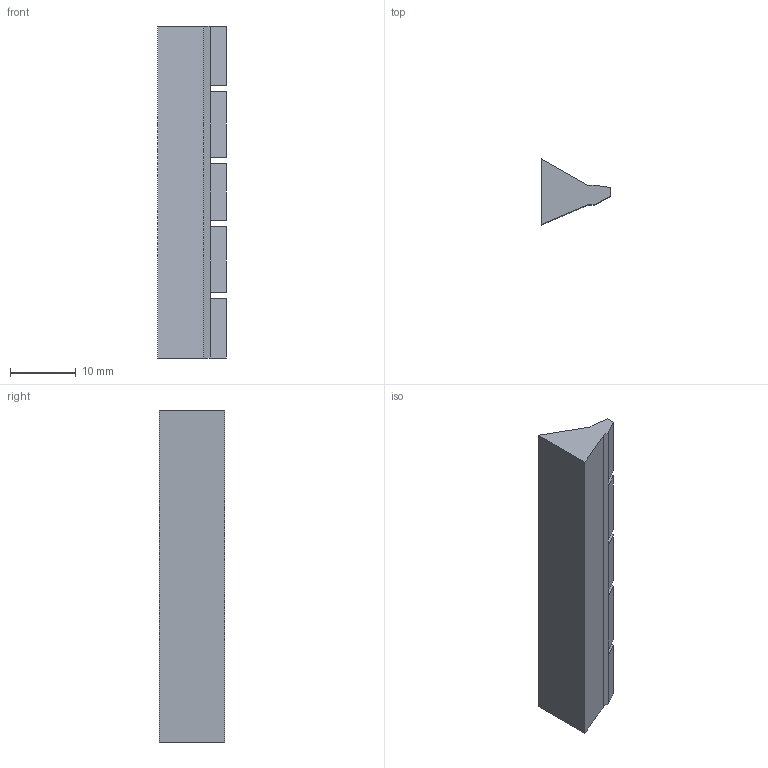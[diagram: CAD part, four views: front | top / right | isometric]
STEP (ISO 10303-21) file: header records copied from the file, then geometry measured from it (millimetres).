
FILE_DESCRIPTION(('STEP AP203'), '1');
FILE_NAME('ïîäñòàâêà 7-8ìì öåíòðîâàíûé', '', ('UNSPECIFIED'), ('UNSPECIFIED'), 'ASCON STEP Converter 1.3', 'ASCON Math Kernel', '');
FILE_SCHEMA(('CONFIG_CONTROL_DESIGN'));
Length unit declared in the file: millimetre
Bounding box: 10.5 x 10 x 50.6 mm (x, y, z)
Volume: 2714.7 mm3; surface area: 1873.5 mm2
Topology: 1 solids, 1 shells, 34 faces, 80 edges, 48 vertices
Faces by surface type: plane 34
Entity records: 1252 total; most frequent: CARTESIAN_POINT 163, ORIENTED_EDGE 160, DIRECTION 150, EDGE_CURVE 80, LINE 80, VECTOR 80, VERTEX_POINT 48, AXIS2_PLACEMENT_3D 35
